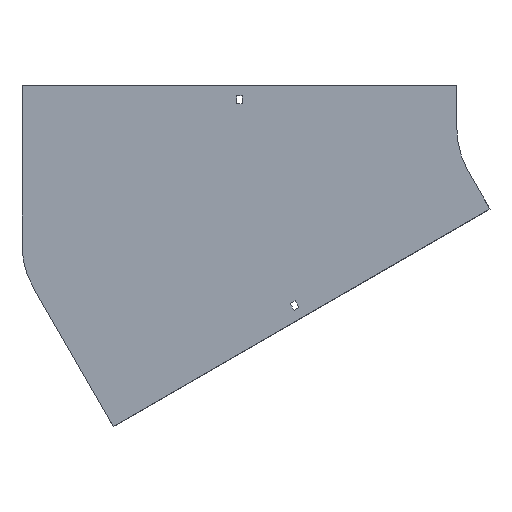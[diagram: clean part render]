
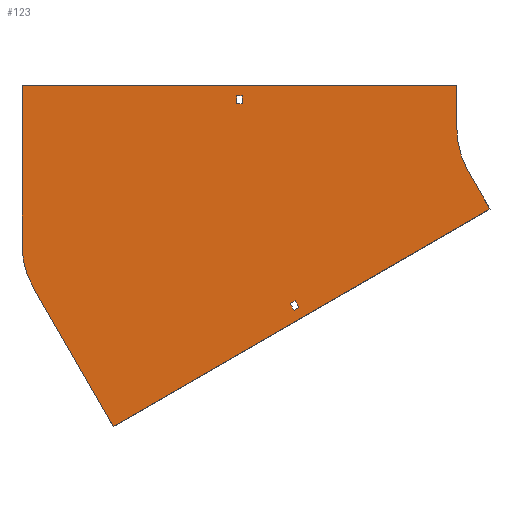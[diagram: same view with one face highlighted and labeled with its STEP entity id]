
A CAD part, front view. The second image highlights one B-rep face of the part: STEP entity #123.
In plain terms, the highlighted planar face has unit normal (0, -1, 0).
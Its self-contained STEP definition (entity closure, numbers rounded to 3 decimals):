
#15 = VERTEX_POINT ( 'NONE', #381 ) ;
#16 = CARTESIAN_POINT ( 'NONE',  ( -61.603, 0., -93.301 ) ) ;
#49 = CARTESIAN_POINT ( 'NONE',  ( -498.079, 0., -345.301 ) ) ;
#71 = DIRECTION ( 'NONE',  ( 0., 0., 1. ) ) ;
#75 = CARTESIAN_POINT ( 'NONE',  ( -287.526, 0., -199.49 ) ) ;
#81 = PLANE ( 'NONE',  #1549 ) ;
#88 = EDGE_CURVE ( 'NONE', #824, #279, #533, .T. ) ;
#89 = DIRECTION ( 'NONE',  ( 1., 0., 0. ) ) ;
#101 = VECTOR ( 'NONE', #1014, 1000. ) ;
#102 = VERTEX_POINT ( 'NONE', #1552 ) ;
#110 = EDGE_CURVE ( 'NONE', #1786, #570, #1429, .T. ) ;
#117 = LINE ( 'NONE', #1246, #101 ) ;
#120 = EDGE_CURVE ( 'NONE', #827, #102, #1418, .T. ) ;
#123 = ADVANCED_FACE ( 'NONE', ( #653, #201, #673 ), #81, .T. ) ;
#127 = CARTESIAN_POINT ( 'NONE',  ( -288.656, 0., -210.534 ) ) ;
#168 = ORIENTED_EDGE ( 'NONE', *, *, #435, .F. ) ;
#173 = ORIENTED_EDGE ( 'NONE', *, *, #932, .F. ) ;
#177 = AXIS2_PLACEMENT_3D ( 'NONE', #1596, #245, #849 ) ;
#198 = LINE ( 'NONE', #49, #1639 ) ;
#201 = FACE_OUTER_BOUND ( 'NONE', #587, .T. ) ;
#211 = VECTOR ( 'NONE', #1112, 1000. ) ;
#235 = ORIENTED_EDGE ( 'NONE', *, *, #1085, .T. ) ;
#245 = DIRECTION ( 'NONE',  ( 0., -1., 0. ) ) ;
#250 = CARTESIAN_POINT ( 'NONE',  ( -287.526, 0., -199.49 ) ) ;
#279 = VERTEX_POINT ( 'NONE', #1216 ) ;
#306 = VECTOR ( 'NONE', #1706, 1000. ) ;
#357 = VECTOR ( 'NONE', #1367, 1000. ) ;
#371 = ORIENTED_EDGE ( 'NONE', *, *, #1017, .T. ) ;
#373 = LINE ( 'NONE', #1589, #1887 ) ;
#379 = DIRECTION ( 'NONE',  ( 0., 0., 1. ) ) ;
#381 = CARTESIAN_POINT ( 'NONE',  ( -283.026, 0., -207.284 ) ) ;
#383 = EDGE_CURVE ( 'NONE', #1337, #1786, #198, .T. ) ;
#385 = DIRECTION ( 'NONE',  ( 0., 1., 0. ) ) ;
#386 = VECTOR ( 'NONE', #801, 1000. ) ;
#421 = DIRECTION ( 'NONE',  ( 0.5, 0., -0.866 ) ) ;
#435 = EDGE_CURVE ( 'NONE', #894, #486, #117, .T. ) ;
#442 = VERTEX_POINT ( 'NONE', #1118 ) ;
#486 = VERTEX_POINT ( 'NONE', #1426 ) ;
#527 = LINE ( 'NONE', #1900, #614 ) ;
#533 = LINE ( 'NONE', #975, #1802 ) ;
#534 = ORIENTED_EDGE ( 'NONE', *, *, #110, .F. ) ;
#556 = CARTESIAN_POINT ( 'NONE',  ( -604., 0., 50. ) ) ;
#568 = CARTESIAN_POINT ( 'NONE',  ( -293.156, 0., -202.74 ) ) ;
#569 = EDGE_CURVE ( 'NONE', #597, #15, #1776, .T. ) ;
#570 = VERTEX_POINT ( 'NONE', #594 ) ;
#587 = EDGE_LOOP ( 'NONE', ( #751, #1895, #534, #1562, #1391, #1819, #173, #1259 ) ) ;
#594 = CARTESIAN_POINT ( 'NONE',  ( -604., 0., -135.046 ) ) ;
#597 = VERTEX_POINT ( 'NONE', #127 ) ;
#600 = EDGE_CURVE ( 'NONE', #486, #597, #1801, .T. ) ;
#602 = VERTEX_POINT ( 'NONE', #1024 ) ;
#614 = VECTOR ( 'NONE', #379, 1000. ) ;
#629 = EDGE_LOOP ( 'NONE', ( #1813, #1807, #168, #1919 ) ) ;
#632 = VECTOR ( 'NONE', #1488, 1000. ) ;
#647 = LINE ( 'NONE', #1880, #1649 ) ;
#653 = FACE_BOUND ( 'NONE', #889, .T. ) ;
#663 = EDGE_CURVE ( 'NONE', #1716, #1337, #769, .T. ) ;
#664 = CARTESIAN_POINT ( 'NONE',  ( -100., 0., 0. ) ) ;
#673 = FACE_BOUND ( 'NONE', #629, .T. ) ;
#689 = CARTESIAN_POINT ( 'NONE',  ( 0., 0., 0. ) ) ;
#751 = ORIENTED_EDGE ( 'NONE', *, *, #120, .F. ) ;
#769 = LINE ( 'NONE', #16, #357 ) ;
#793 = VECTOR ( 'NONE', #89, 1000. ) ;
#801 = DIRECTION ( 'NONE',  ( 0., 0., -1. ) ) ;
#804 = DIRECTION ( 'NONE',  ( 0., 0., -1. ) ) ;
#824 = VERTEX_POINT ( 'NONE', #1003 ) ;
#827 = VERTEX_POINT ( 'NONE', #556 ) ;
#835 = CARTESIAN_POINT ( 'NONE',  ( -504., 0., -135.046 ) ) ;
#838 = DIRECTION ( 'NONE',  ( 0.5, 0., -0.866 ) ) ;
#849 = DIRECTION ( 'NONE',  ( 0., 0., -1. ) ) ;
#872 = DIRECTION ( 'NONE',  ( -0.5, 0., 0.866 ) ) ;
#888 = CARTESIAN_POINT ( 'NONE',  ( -288.656, 0., -210.534 ) ) ;
#889 = EDGE_LOOP ( 'NONE', ( #1045, #235, #371, #1178 ) ) ;
#894 = VERTEX_POINT ( 'NONE', #75 ) ;
#897 = EDGE_CURVE ( 'NONE', #1829, #1716, #373, .T. ) ;
#913 = CARTESIAN_POINT ( 'NONE',  ( -590.603, 0., -185.046 ) ) ;
#932 = EDGE_CURVE ( 'NONE', #1482, #1829, #1058, .T. ) ;
#955 = VECTOR ( 'NONE', #421, 1000. ) ;
#975 = CARTESIAN_POINT ( 'NONE',  ( -355.25, 0., 29. ) ) ;
#1003 = CARTESIAN_POINT ( 'NONE',  ( -348.75, 0., 29. ) ) ;
#1014 = DIRECTION ( 'NONE',  ( -0.866, 0., -0.5 ) ) ;
#1017 = EDGE_CURVE ( 'NONE', #442, #824, #1266, .T. ) ;
#1024 = CARTESIAN_POINT ( 'NONE',  ( -355.25, 0., 38. ) ) ;
#1045 = ORIENTED_EDGE ( 'NONE', *, *, #1497, .T. ) ;
#1058 = CIRCLE ( 'NONE', #177, 100. ) ;
#1085 = EDGE_CURVE ( 'NONE', #602, #442, #647, .T. ) ;
#1088 = CARTESIAN_POINT ( 'NONE',  ( -86.603, 0., -50. ) ) ;
#1112 = DIRECTION ( 'NONE',  ( 0., 0., 1. ) ) ;
#1118 = CARTESIAN_POINT ( 'NONE',  ( -348.75, 0., 38. ) ) ;
#1138 = DIRECTION ( 'NONE',  ( -1., 0., 0. ) ) ;
#1178 = ORIENTED_EDGE ( 'NONE', *, *, #88, .T. ) ;
#1216 = CARTESIAN_POINT ( 'NONE',  ( -355.25, 0., 29. ) ) ;
#1245 = CARTESIAN_POINT ( 'NONE',  ( -348.75, 0., 29. ) ) ;
#1246 = CARTESIAN_POINT ( 'NONE',  ( -293.156, 0., -202.74 ) ) ;
#1259 = ORIENTED_EDGE ( 'NONE', *, *, #1897, .F. ) ;
#1266 = LINE ( 'NONE', #1245, #306 ) ;
#1270 = CARTESIAN_POINT ( 'NONE',  ( -604., 0., 50. ) ) ;
#1282 = DIRECTION ( 'NONE',  ( 0., -1., 0. ) ) ;
#1303 = AXIS2_PLACEMENT_3D ( 'NONE', #835, #385, #71 ) ;
#1337 = VERTEX_POINT ( 'NONE', #1800 ) ;
#1347 = CARTESIAN_POINT ( 'NONE',  ( -61.603, 0., -93.301 ) ) ;
#1367 = DIRECTION ( 'NONE',  ( -0.866, 0., -0.5 ) ) ;
#1391 = ORIENTED_EDGE ( 'NONE', *, *, #663, .F. ) ;
#1409 = VECTOR ( 'NONE', #1567, 1000. ) ;
#1418 = LINE ( 'NONE', #1270, #793 ) ;
#1426 = CARTESIAN_POINT ( 'NONE',  ( -293.156, 0., -202.74 ) ) ;
#1429 = CIRCLE ( 'NONE', #1303, 100. ) ;
#1432 = LINE ( 'NONE', #250, #1409 ) ;
#1445 = DIRECTION ( 'NONE',  ( 1., 0., 0. ) ) ;
#1457 = CARTESIAN_POINT ( 'NONE',  ( -355.25, 0., 29. ) ) ;
#1482 = VERTEX_POINT ( 'NONE', #664 ) ;
#1488 = DIRECTION ( 'NONE',  ( 0.866, 0., 0.5 ) ) ;
#1497 = EDGE_CURVE ( 'NONE', #279, #602, #1601, .T. ) ;
#1544 = EDGE_CURVE ( 'NONE', #15, #894, #1432, .T. ) ;
#1549 = AXIS2_PLACEMENT_3D ( 'NONE', #689, #1282, #804 ) ;
#1552 = CARTESIAN_POINT ( 'NONE',  ( -100., 0., 50. ) ) ;
#1560 = CARTESIAN_POINT ( 'NONE',  ( -100., 0., 50. ) ) ;
#1562 = ORIENTED_EDGE ( 'NONE', *, *, #383, .F. ) ;
#1567 = DIRECTION ( 'NONE',  ( -0.5, 0., 0.866 ) ) ;
#1589 = CARTESIAN_POINT ( 'NONE',  ( -86.603, 0., -50. ) ) ;
#1596 = CARTESIAN_POINT ( 'NONE',  ( 0., 0., 0. ) ) ;
#1601 = LINE ( 'NONE', #1457, #211 ) ;
#1616 = EDGE_CURVE ( 'NONE', #570, #827, #527, .T. ) ;
#1639 = VECTOR ( 'NONE', #872, 1000. ) ;
#1649 = VECTOR ( 'NONE', #1445, 1000. ) ;
#1706 = DIRECTION ( 'NONE',  ( 0., 0., -1. ) ) ;
#1716 = VERTEX_POINT ( 'NONE', #1347 ) ;
#1776 = LINE ( 'NONE', #888, #632 ) ;
#1786 = VERTEX_POINT ( 'NONE', #913 ) ;
#1800 = CARTESIAN_POINT ( 'NONE',  ( -498.079, 0., -345.301 ) ) ;
#1801 = LINE ( 'NONE', #568, #955 ) ;
#1802 = VECTOR ( 'NONE', #1138, 1000. ) ;
#1807 = ORIENTED_EDGE ( 'NONE', *, *, #600, .F. ) ;
#1813 = ORIENTED_EDGE ( 'NONE', *, *, #569, .F. ) ;
#1819 = ORIENTED_EDGE ( 'NONE', *, *, #897, .F. ) ;
#1829 = VERTEX_POINT ( 'NONE', #1088 ) ;
#1880 = CARTESIAN_POINT ( 'NONE',  ( -355.25, 0., 38. ) ) ;
#1887 = VECTOR ( 'NONE', #838, 1000. ) ;
#1895 = ORIENTED_EDGE ( 'NONE', *, *, #1616, .F. ) ;
#1897 = EDGE_CURVE ( 'NONE', #102, #1482, #1912, .T. ) ;
#1900 = CARTESIAN_POINT ( 'NONE',  ( -604., 0., -135.046 ) ) ;
#1912 = LINE ( 'NONE', #1560, #386 ) ;
#1919 = ORIENTED_EDGE ( 'NONE', *, *, #1544, .F. ) ;
